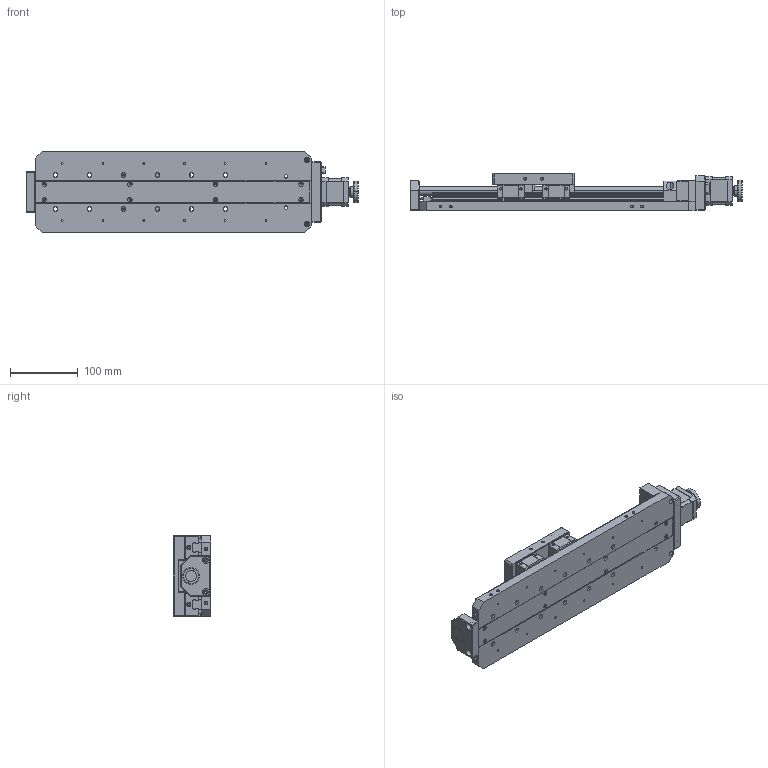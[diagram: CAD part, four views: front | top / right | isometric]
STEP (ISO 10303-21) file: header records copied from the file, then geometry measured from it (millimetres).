
FILE_DESCRIPTION (( 'STEP AP214' ), '1' );
FILE_NAME ('PT-GD140G(200).STEP', '2022-09-18T03:18:14', ( '' ), ( '' ), 'SwSTEP 2.0', 'SolidWorks 2017', '' );
FILE_SCHEMA (( 'AUTOMOTIVE_DESIGN' ));
Length unit declared in the file: millimetre
Products named in the file (1): PT-GD140G(200)
Bounding box: 489 x 55 x 120 mm (x, y, z)
Volume: 1257577.5 mm3; surface area: 385882.6 mm2
Topology: 32 solids, 32 shells, 2668 faces, 7486 edges, 4835 vertices
Faces by surface type: plane 1102, cylinder 1012, bspline 334, cone 204, torus 16
Entity records: 118031 total; most frequent: CARTESIAN_POINT 35721, ORIENTED_EDGE 14484, DIRECTION 12530, EDGE_CURVE 7242, VERTEX_POINT 4829, AXIS2_PLACEMENT_3D 4496, VECTOR 3538, LINE 3538
